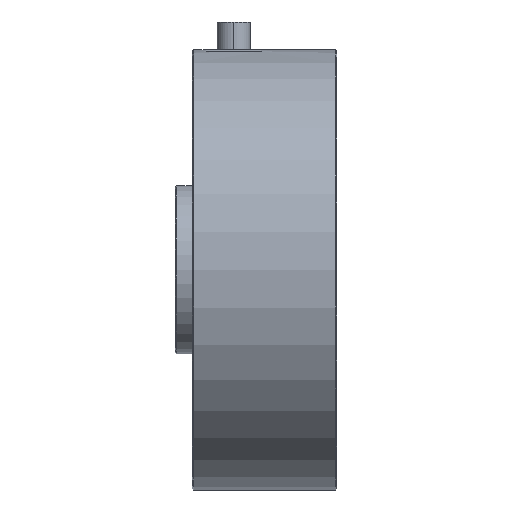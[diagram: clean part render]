
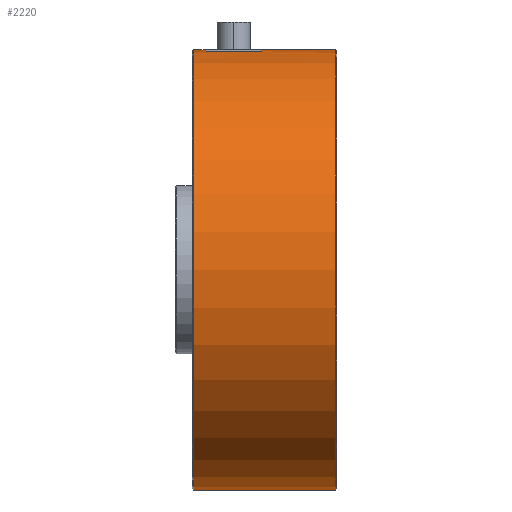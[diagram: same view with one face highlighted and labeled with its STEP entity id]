
A CAD part, left-side view. The second image highlights one B-rep face of the part: STEP entity #2220.
In plain terms, the highlighted cylindrical face has radius 101.6 mm (diameter 203.2 mm), a partial arc.
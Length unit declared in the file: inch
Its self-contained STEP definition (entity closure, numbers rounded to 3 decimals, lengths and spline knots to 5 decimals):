
#98 = LINE ( 'NONE', #2838, #1358 ) ;
#104 = CARTESIAN_POINT ( 'NONE',  ( 0., 0.02, 4. ) ) ;
#144 = CIRCLE ( 'NONE', #1955, 4. ) ;
#161 = LINE ( 'NONE', #1632, #2445 ) ;
#193 = DIRECTION ( 'NONE',  ( 0., -1., 0. ) ) ;
#204 = EDGE_CURVE ( 'NONE', #2312, #2046, #144, .T. ) ;
#268 = CARTESIAN_POINT ( 'NONE',  ( 0., 2.62, -4. ) ) ;
#274 = DIRECTION ( 'NONE',  ( 0., 0., -1. ) ) ;
#294 = ORIENTED_EDGE ( 'NONE', *, *, #1096, .F. ) ;
#335 = ORIENTED_EDGE ( 'NONE', *, *, #204, .T. ) ;
#350 = EDGE_LOOP ( 'NONE', ( #2580, #1217, #2532, #335, #2775, #294, #1180, #2112 ) ) ;
#383 = CIRCLE ( 'NONE', #1988, 4. ) ;
#412 = DIRECTION ( 'NONE',  ( 0., -1., 0. ) ) ;
#458 = CARTESIAN_POINT ( 'NONE',  ( 0., 2.6, -4. ) ) ;
#524 = LINE ( 'NONE', #268, #966 ) ;
#544 = DIRECTION ( 'NONE',  ( 0., 1., 0. ) ) ;
#588 = CARTESIAN_POINT ( 'NONE',  ( 0., 2.6, 0. ) ) ;
#678 = DIRECTION ( 'NONE',  ( 0., -1., 0. ) ) ;
#682 = VERTEX_POINT ( 'NONE', #1999 ) ;
#795 = DIRECTION ( 'NONE',  ( 0., 1., 0. ) ) ;
#812 = CARTESIAN_POINT ( 'NONE',  ( 0., 0.02, -4. ) ) ;
#829 = EDGE_CURVE ( 'NONE', #1107, #1446, #3165, .T. ) ;
#920 = EDGE_CURVE ( 'NONE', #1603, #2046, #98, .T. ) ;
#966 = VECTOR ( 'NONE', #2825, 39.37008 ) ;
#989 = EDGE_CURVE ( 'NONE', #1107, #682, #383, .T. ) ;
#1090 = DIRECTION ( 'NONE',  ( 0., -1., 0. ) ) ;
#1096 = EDGE_CURVE ( 'NONE', #1446, #1603, #2032, .T. ) ;
#1099 = DIRECTION ( 'NONE',  ( 0., 0., 1. ) ) ;
#1107 = VERTEX_POINT ( 'NONE', #2342 ) ;
#1180 = ORIENTED_EDGE ( 'NONE', *, *, #829, .F. ) ;
#1217 = ORIENTED_EDGE ( 'NONE', *, *, #3075, .T. ) ;
#1358 = VECTOR ( 'NONE', #1090, 39.37008 ) ;
#1446 = VERTEX_POINT ( 'NONE', #3023 ) ;
#1475 = DIRECTION ( 'NONE',  ( 0., 1., 0. ) ) ;
#1477 = CYLINDRICAL_SURFACE ( 'NONE', #1919, 4. ) ;
#1603 = VERTEX_POINT ( 'NONE', #3086 ) ;
#1610 = VECTOR ( 'NONE', #412, 39.37008 ) ;
#1622 = DIRECTION ( 'NONE',  ( 0., 0., -1. ) ) ;
#1632 = CARTESIAN_POINT ( 'NONE',  ( 0., 2.62, 4. ) ) ;
#1709 = EDGE_CURVE ( 'NONE', #2428, #682, #161, .T. ) ;
#1710 = FACE_OUTER_BOUND ( 'NONE', #350, .T. ) ;
#1789 = CARTESIAN_POINT ( 'NONE',  ( 0., 1.37, 0. ) ) ;
#1811 = AXIS2_PLACEMENT_3D ( 'NONE', #588, #3047, #1099 ) ;
#1919 = AXIS2_PLACEMENT_3D ( 'NONE', #2453, #193, #3237 ) ;
#1955 = AXIS2_PLACEMENT_3D ( 'NONE', #3043, #1475, #2984 ) ;
#1988 = AXIS2_PLACEMENT_3D ( 'NONE', #2853, #795, #1622 ) ;
#1999 = CARTESIAN_POINT ( 'NONE',  ( 0., 2.37, 4. ) ) ;
#2032 = CIRCLE ( 'NONE', #2534, 4. ) ;
#2046 = VERTEX_POINT ( 'NONE', #104 ) ;
#2112 = ORIENTED_EDGE ( 'NONE', *, *, #989, .T. ) ;
#2220 = ADVANCED_FACE ( 'NONE', ( #1710 ), #1477, .T. ) ;
#2312 = VERTEX_POINT ( 'NONE', #812 ) ;
#2335 = EDGE_CURVE ( 'NONE', #2459, #2312, #524, .T. ) ;
#2342 = CARTESIAN_POINT ( 'NONE',  ( -0.5, 2.37, 3.96863 ) ) ;
#2381 = CARTESIAN_POINT ( 'NONE',  ( 0., 2.6, 4. ) ) ;
#2428 = VERTEX_POINT ( 'NONE', #2381 ) ;
#2445 = VECTOR ( 'NONE', #678, 39.37008 ) ;
#2453 = CARTESIAN_POINT ( 'NONE',  ( 0., 2.62, 0. ) ) ;
#2459 = VERTEX_POINT ( 'NONE', #458 ) ;
#2532 = ORIENTED_EDGE ( 'NONE', *, *, #2335, .T. ) ;
#2534 = AXIS2_PLACEMENT_3D ( 'NONE', #1789, #544, #274 ) ;
#2580 = ORIENTED_EDGE ( 'NONE', *, *, #1709, .F. ) ;
#2594 = CIRCLE ( 'NONE', #1811, 4. ) ;
#2775 = ORIENTED_EDGE ( 'NONE', *, *, #920, .F. ) ;
#2825 = DIRECTION ( 'NONE',  ( 0., -1., 0. ) ) ;
#2838 = CARTESIAN_POINT ( 'NONE',  ( 0., 2.62, 4. ) ) ;
#2853 = CARTESIAN_POINT ( 'NONE',  ( 0., 2.37, 0. ) ) ;
#2918 = CARTESIAN_POINT ( 'NONE',  ( -0.5, 2.62, 3.96863 ) ) ;
#2984 = DIRECTION ( 'NONE',  ( 0., 0., 1. ) ) ;
#3023 = CARTESIAN_POINT ( 'NONE',  ( -0.5, 1.37, 3.96863 ) ) ;
#3043 = CARTESIAN_POINT ( 'NONE',  ( 0., 0.02, 0. ) ) ;
#3047 = DIRECTION ( 'NONE',  ( 0., -1., 0. ) ) ;
#3075 = EDGE_CURVE ( 'NONE', #2428, #2459, #2594, .T. ) ;
#3086 = CARTESIAN_POINT ( 'NONE',  ( 0., 1.37, 4. ) ) ;
#3165 = LINE ( 'NONE', #2918, #1610 ) ;
#3237 = DIRECTION ( 'NONE',  ( 0., 0., -1. ) ) ;
